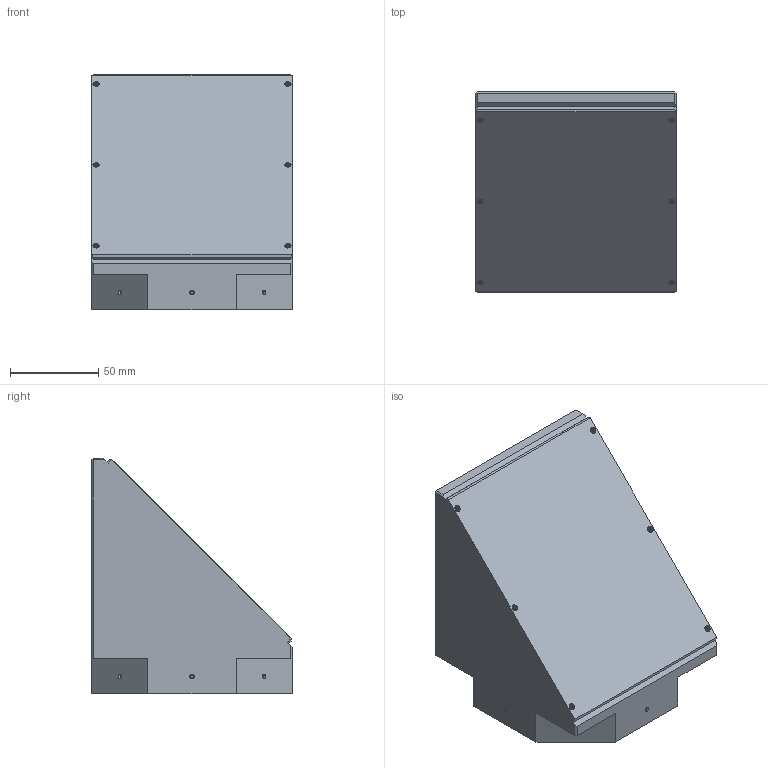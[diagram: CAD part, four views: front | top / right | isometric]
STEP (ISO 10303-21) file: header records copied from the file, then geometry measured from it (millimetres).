
FILE_DESCRIPTION (( 'STEP AP203' ), '1' );
FILE_NAME ('3d_mtl-pl80_a001.STEP', '2017-05-24T07:49:56', ( '' ), ( '' ), 'SwSTEP 2.0', 'SolidWorks 2014', '' );
FILE_SCHEMA (( 'CONFIG_CONTROL_DESIGN' ));
Length unit declared in the file: millimetre
Products named in the file (1): 3d_mtl-pl80_a001
Bounding box: 114 x 114 x 134 mm (x, y, z)
Volume: 410284.1 mm3; surface area: 87689.1 mm2
Topology: 1 solids, 13 shells, 466 faces, 1116 edges, 708 vertices
Faces by surface type: plane 254, cone 145, cylinder 49, torus 12, sphere 6
Full cylindrical faces by diameter (mm): 1.6 x6, 2 x6, 2.4 x6, 2.5 x16, 3.3 x4, 3.5 x6, 93 x2, 93.94 x1, 95 x1, 104 x1
Entity records: 13100 total; most frequent: CARTESIAN_POINT 3291, DIRECTION 2018, ORIENTED_EDGE 1864, EDGE_CURVE 932, AXIS2_PLACEMENT_3D 846, VERTEX_POINT 635, EDGE_LOOP 623, FACE_OUTER_BOUND 533
